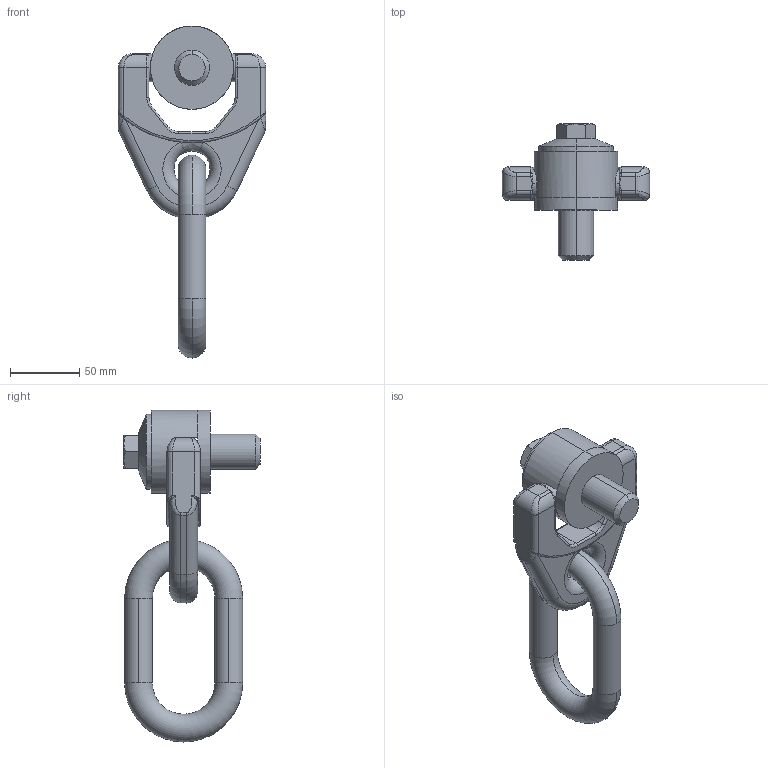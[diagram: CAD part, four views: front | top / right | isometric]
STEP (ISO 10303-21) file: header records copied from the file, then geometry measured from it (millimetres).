
FILE_DESCRIPTION (( 'STEP AP203' ), '1' );
FILE_NAME ('63150.W0300.step', '2013-12-13T11:55:52', ( 'User' ), ( '' ), 'SwSTEP 2.0', 'SolidWorks 2009', '' );
FILE_SCHEMA (( 'CONFIG_CONTROL_DESIGN' ));
Length unit declared in the file: millimetre
Products named in the file (4): 63150.W0300; Part1_63150.W0300; Part2C; Part3_63150.W0300
Assembly tree (3 placements, depth 2):
  63150.W0300
    Part1_63150.W0300
    Part3_63150.W0300
    Part2C
Bounding box: 106 x 98 x 239 mm (x, y, z)
Volume: 385442.7 mm3; surface area: 67585.5 mm2
Topology: 3 solids, 3 shells, 170 faces, 419 edges, 247 vertices
Faces by surface type: cylinder 54, bspline 46, plane 38, torus 22, cone 10
Entity records: 7536 total; most frequent: CARTESIAN_POINT 3436, ORIENTED_EDGE 826, DIRECTION 734, EDGE_CURVE 413, AXIS2_PLACEMENT_3D 305, VERTEX_POINT 247, CIRCLE 175, EDGE_LOOP 174
